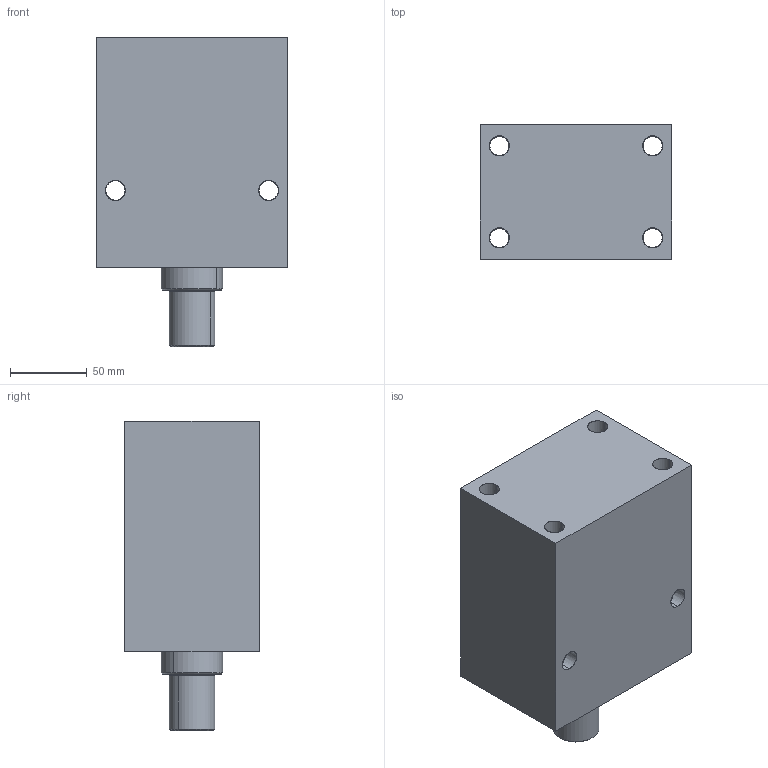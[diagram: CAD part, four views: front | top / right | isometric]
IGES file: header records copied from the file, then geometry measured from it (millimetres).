
Start section: SolidWorks IGES file using analytic representation for surfaces
Global section: file name: D:\karuppas\Clasp\3D model\Block cylinder B01C-Male thread - Copy\B01C-675M\Block cylinder B01C-675M.IGS; native system: SolidWorks 2017; preprocessor: SolidWorks 2017; author: pc; date: 220709.234547; units: millimetre
Bounding box: 125 x 88 x 202 mm (x, y, z)
Surface area: 145421.7 mm2 (no closed solid volume)
Topology: 0 solids, 0 shells, 347 faces, 5365 edges, 5361 vertices
Faces by surface type: bspline 293, revolution 54
